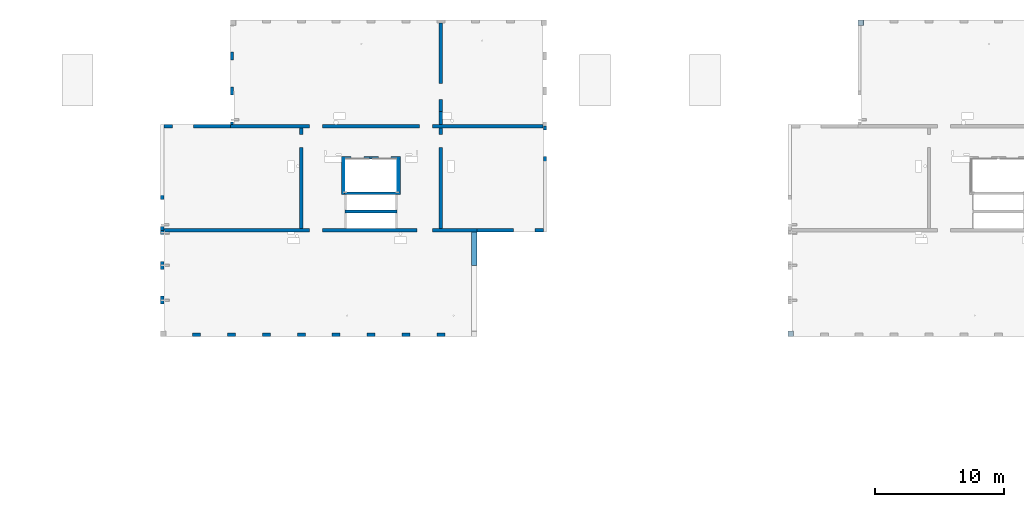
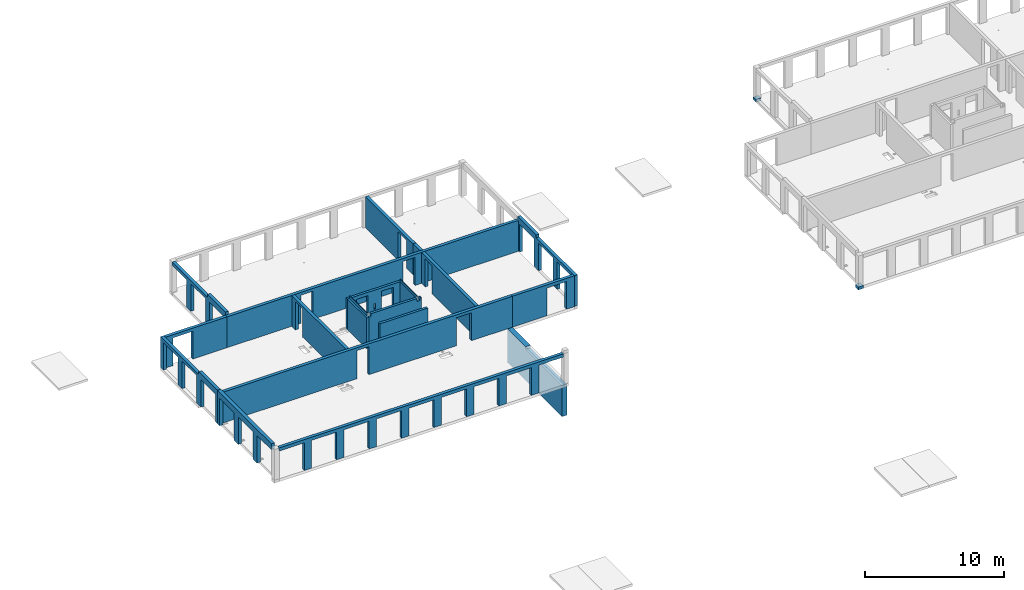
# One storey, part 7 of 14: 21 walls, 2 slabs, 40 openings.
"""IFC2X3 building model written with IfcOpenShell, lengths in millimetres."""

import ifcopenshell
import ifcopenshell.guid

model = None  # the IFC model being written
_history = None  # IfcOwnerHistory: only IFC2X3 demands one
_inside = {}  # id of a spatial element -> (the spatial element, [elements in it])
_under = {}  # id of a project, library or spatial element -> (it, [spatial elements below it])
_declared = {}  # id of a project -> (the project, [libraries it declares])
_typed = {}  # id of a type object -> (the type object, [elements of that type])
_made_of = {}  # id of a material, layer set ... -> (it, [elements and type objects made of it])


def new_model(schema):
    """Start an empty IFC model of exactly this schema.

    Asked for "IFC4X3", IfcOpenShell would pick the latest addendum, in which some entities
    have other attributes; the version numbers below select the first issue.
    IFC2X3 requires an IfcOwnerHistory on every rooted entity: one is made here for all.
    """
    global model, _history
    if schema == "IFC4X3":
        model = ifcopenshell.file(schema_version=(4, 3, 0, 0))
    else:
        model = ifcopenshell.file(schema=schema)
    _inside.clear()
    _under.clear()
    _declared.clear()
    _typed.clear()
    _made_of.clear()
    _history = None
    if model.schema == "IFC2X3":
        org = make("IfcOrganization", Name="unknown")
        user = make(
            "IfcPersonAndOrganization",
            ThePerson=make("IfcPerson", FamilyName="unknown"),
            TheOrganization=org,
        )
        app = make(
            "IfcApplication",
            ApplicationDeveloper=org,
            Version="unknown",
            ApplicationFullName="unknown",
            ApplicationIdentifier="unknown",
        )
        _history = make(
            "IfcOwnerHistory",
            OwningUser=user,
            OwningApplication=app,
            ChangeAction="ADDED",
            CreationDate=0,
        )
    return model


def make(cls, **values):
    """One entity of the class cls with the attributes given. An attribute that is None is left unset."""
    return model.create_entity(
        cls, **{name: value for name, value in values.items() if value is not None}
    )


def entity(cls, *values):
    """Any entity or typed value of the class cls, its attributes in the order of the schema. None: left unset."""
    e = model.create_entity(cls)
    for i, value in enumerate(values):
        if value is not None:
            e[i] = value
    return e


def rooted(cls, **values):
    """An entity with a GlobalId (a new one), such as an element, a storey or a relation."""
    return make(cls, GlobalId=ifcopenshell.guid.new(), OwnerHistory=_history, **values)


def si_unit(unit_type, name, prefix=None):
    """IfcSIUnit, for example si_unit("LENGTHUNIT", "METRE", prefix="MILLI")."""
    return make("IfcSIUnit", UnitType=unit_type, Prefix=prefix, Name=name)


def converted_unit(unit_type, name, factor, base, dimensions=None, offset=None):
    """IfcConversionBasedUnit, such as the inch: factor (a typed value) times the base unit."""
    return make(
        "IfcConversionBasedUnit"
        if offset is None
        else "IfcConversionBasedUnitWithOffset",
        ConversionOffset=offset,
        Dimensions=None
        if dimensions is None
        else entity("IfcDimensionalExponents", *dimensions),
        UnitType=unit_type,
        Name=name,
        ConversionFactor=make(
            "IfcMeasureWithUnit", ValueComponent=factor, UnitComponent=base
        ),
    )


def derived_unit(unit_type, elements):
    """IfcDerivedUnit: a product of units, each with its exponent."""
    return make(
        "IfcDerivedUnit",
        Elements=[
            make("IfcDerivedUnitElement", Unit=unit, Exponent=power)
            for unit, power in elements
        ],
        UnitType=unit_type,
    )


def assignment(units):
    """IfcUnitAssignment: the units of a project."""
    return None if units is None else make("IfcUnitAssignment", Units=units)


def point(xyz):
    """IfcCartesianPoint."""
    return None if xyz is None else make("IfcCartesianPoint", Coordinates=xyz)


def direction(xyz):
    """IfcDirection."""
    return None if xyz is None else make("IfcDirection", DirectionRatios=xyz)


def frame(location, z_axis=None, x_axis=None):
    """IfcAxis2Placement3D, a coordinate frame: its origin and axes. An axis left out is left unset."""
    return make(
        "IfcAxis2Placement3D",
        Location=point(location),
        Axis=direction(z_axis),
        RefDirection=direction(x_axis),
    )


def frame_2d(location, x_axis=None):
    """IfcAxis2Placement2D, a coordinate frame in the plane: its origin and x axis."""
    return make(
        "IfcAxis2Placement2D", Location=point(location), RefDirection=direction(x_axis)
    )


def origin():
    """The frame at (0, 0, 0) with its axes left unset."""
    return frame((0.0, 0.0, 0.0))


def origin_2d_with_axis():
    """The frame at (0, 0) in the plane with the x axis (1, 0) written out."""
    return frame_2d((0.0, 0.0), x_axis=(1.0, 0.0))


def place(relative_to, where):
    """IfcLocalPlacement: puts the frame where relative to a parent placement (None: the world)."""
    return make(
        "IfcLocalPlacement", PlacementRelTo=relative_to, RelativePlacement=where
    )


def context(
    kind, dimensions, precision=None, world=None, true_north=None, identifier=None
):
    """IfcGeometricRepresentationContext, for example the 3D "Model" context."""
    return make(
        "IfcGeometricRepresentationContext",
        ContextIdentifier=identifier,
        ContextType=kind,
        CoordinateSpaceDimension=dimensions,
        Precision=precision,
        WorldCoordinateSystem=world,
        TrueNorth=true_north,
    )


def subcontext(parent, identifier, kind, view, scale=None):
    """IfcGeometricRepresentationSubContext, for example "Body" below "Model"."""
    return make(
        "IfcGeometricRepresentationSubContext",
        ContextIdentifier=identifier,
        ContextType=kind,
        ParentContext=parent,
        TargetScale=scale,
        TargetView=view,
    )


def project(units=None, contexts=None):
    """IfcProject with its units and contexts."""
    return rooted(
        "IfcProject",
        Name="project",
        RepresentationContexts=contexts,
        UnitsInContext=assignment(units),
    )


def spatial(cls, under=None, at=None, **own):
    """A site, building, storey or space (cls), placed at a placement, below another one or the project."""
    s = rooted(cls, ObjectPlacement=at, **own)
    if under is not None:
        _under.setdefault(under.id(), (under, []))[1].append(s)
    return s


def polyline(points):
    """IfcPolyline through the points."""
    return make("IfcPolyline", Points=[point(p) for p in points])


def profile(cls, at=None, kind="AREA", **sizes):
    """A parametric profile (cls). Its sizes go by their IFC names, for example OverallWidth=200.0."""
    return make(cls, ProfileType=kind, Position=at, **sizes)


def rectangle(**sizes):
    """IfcRectangleProfileDef."""
    return profile("IfcRectangleProfileDef", **sizes)


def outline(outer, holes=None, kind="AREA"):
    """IfcArbitraryClosedProfileDef: a profile drawn as a closed curve; with holes, ...WithVoids."""
    if holes is None:
        return make("IfcArbitraryClosedProfileDef", ProfileType=kind, OuterCurve=outer)
    return make(
        "IfcArbitraryProfileDefWithVoids",
        ProfileType=kind,
        OuterCurve=outer,
        InnerCurves=holes,
    )


def extrude(swept, where, along, depth):
    """IfcExtrudedAreaSolid: the profile swept, set in the frame where, extruded along a direction by depth."""
    return make(
        "IfcExtrudedAreaSolid",
        SweptArea=swept,
        Position=where,
        ExtrudedDirection=direction(along),
        Depth=depth,
    )


def shape(context_of_items, identifier, shape_type, items):
    """IfcShapeRepresentation: the items that make up one representation, for example the "Body"."""
    return make(
        "IfcShapeRepresentation",
        ContextOfItems=context_of_items,
        RepresentationIdentifier=identifier,
        RepresentationType=shape_type,
        Items=items,
    )


def material(Name=None, Category=None):
    """IfcMaterial."""
    return make("IfcMaterial", Name=Name, Category=Category)


def layer(
    of_material, thickness, ventilated=None, Name=None, Category=None, Priority=None
):
    """IfcMaterialLayer: one layer of a wall or slab, of a material (None: an air gap)."""
    return make(
        "IfcMaterialLayer",
        Material=of_material,
        LayerThickness=thickness,
        IsVentilated=ventilated,
        Name=Name,
        Category=Category,
        Priority=Priority,
    )


def layer_set(layers, Name=None):
    """IfcMaterialLayerSet."""
    return make("IfcMaterialLayerSet", MaterialLayers=layers, LayerSetName=Name)


def layer_usage(for_layer_set, set_direction, sense, offset, extent=None):
    """IfcMaterialLayerSetUsage: how a layer set lies in its element."""
    return make(
        "IfcMaterialLayerSetUsage",
        ForLayerSet=for_layer_set,
        LayerSetDirection=set_direction,
        DirectionSense=sense,
        OffsetFromReferenceLine=offset,
        ReferenceExtent=extent,
    )


def made_of(thing, what):
    """Note that an element or type object is made of a material, layer set ...; save() writes the relation."""
    if what is not None:
        _made_of.setdefault(what.id(), (what, []))[1].append(thing)
    return thing


def type_object(cls, material=None, **own):
    """A type object (cls), such as IfcWallType, which elements share."""
    return made_of(rooted(cls, **own), material)


def element(
    cls,
    number,
    at=None,
    inside=None,
    cuts=None,
    type_object=None,
    material=None,
    context=None,
    identifier="Body",
    shape_type=None,
    held_by="IfcProductDefinitionShape",
    body=None,
    shapes=None,
    **own,
):
    """One element of the class cls, such as IfcWall. Its Tag is "e" and its number.

    at: its placement. inside: the storey or other place that contains it. cuts: it is an
    opening in that element (IfcRelVoidsElement). A single representation is given by context,
    identifier, shape_type and body (its items); several are given by shapes. held_by: the class
    of the entity that holds the representations. save() writes the other relations.
    """
    e = rooted(cls, Tag="e%d" % number, ObjectPlacement=at, **own)
    if body is not None:
        shapes = [shape(context, identifier, shape_type, body)]
    if shapes is not None:
        e.Representation = make(held_by, Representations=shapes)
    if inside is not None:
        _inside.setdefault(inside.id(), (inside, []))[1].append(e)
    if cuts is not None:
        rooted(
            "IfcRelVoidsElement", RelatingBuildingElement=cuts, RelatedOpeningElement=e
        )
    if type_object is not None:
        _typed.setdefault(type_object.id(), (type_object, []))[1].append(e)
    return made_of(e, material)


def aggregate(whole, parts):
    """IfcRelAggregates: a whole, such as a stair, and the parts it consists of."""
    return rooted("IfcRelAggregates", RelatingObject=whole, RelatedObjects=parts)


def save(model, path):
    """Write the relations noted so far, then the file.

    IfcRelAggregates (storeys below a building ...), IfcRelContainedInSpatialStructure (elements
    in a storey), IfcRelDefinesByType, IfcRelAssociatesMaterial and IfcRelDeclares: one each for
    every whole, place, type object, material and project.
    """
    for whole, parts in _under.values():
        aggregate(whole, parts)
    for where, things in _inside.values():
        rooted(
            "IfcRelContainedInSpatialStructure",
            RelatedElements=things,
            RelatingStructure=where,
        )
    for kind, things in _typed.values():
        rooted("IfcRelDefinesByType", RelatedObjects=things, RelatingType=kind)
    for what, things in _made_of.values():
        rooted("IfcRelAssociatesMaterial", RelatedObjects=things, RelatingMaterial=what)
    for by, libraries in _declared.values():
        rooted("IfcRelDeclares", RelatingContext=by, RelatedDefinitions=libraries)
    model.write(path)


model = new_model("IFC2X3")

# Units and contexts
model_context = context("Model", 3, precision=0.01, world=origin(), true_north=direction((6.12303176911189e-17, 1.0)))
body_context = subcontext(model_context, "Body", "Model", "MODEL_VIEW")
ifc_project = project(units=[si_unit("LENGTHUNIT", "METRE", prefix="MILLI"), si_unit("AREAUNIT", "SQUARE_METRE"), si_unit("VOLUMEUNIT", "CUBIC_METRE"), converted_unit("PLANEANGLEUNIT", "DEGREE", entity("IfcRatioMeasure", 0.0174532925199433), si_unit("PLANEANGLEUNIT", "RADIAN"), dimensions=[0, 0, 0, 0, 0, 0, 0]), si_unit("MASSUNIT", "GRAM", prefix="KILO"), derived_unit("MASSDENSITYUNIT", [(si_unit("MASSUNIT", "GRAM", prefix="KILO"), 1), (si_unit("LENGTHUNIT", "METRE"), -3)]), si_unit("TIMEUNIT", "SECOND"), si_unit("FREQUENCYUNIT", "HERTZ"), si_unit("THERMODYNAMICTEMPERATUREUNIT", "DEGREE_CELSIUS"), derived_unit("THERMALTRANSMITTANCEUNIT", [(si_unit("MASSUNIT", "GRAM", prefix="KILO"), 1), (si_unit("THERMODYNAMICTEMPERATUREUNIT", "KELVIN"), -1), (si_unit("TIMEUNIT", "SECOND"), -3)]), derived_unit("VOLUMETRICFLOWRATEUNIT", [(si_unit("LENGTHUNIT", "METRE"), 3), (si_unit("TIMEUNIT", "SECOND"), -1)]), si_unit("ELECTRICCURRENTUNIT", "AMPERE"), si_unit("ELECTRICVOLTAGEUNIT", "VOLT"), si_unit("POWERUNIT", "WATT"), si_unit("FORCEUNIT", "NEWTON", prefix="KILO"), si_unit("ILLUMINANCEUNIT", "LUX"), si_unit("LUMINOUSFLUXUNIT", "LUMEN"), si_unit("LUMINOUSINTENSITYUNIT", "CANDELA"), derived_unit("USERDEFINED", [(si_unit("MASSUNIT", "GRAM", prefix="KILO"), -1), (si_unit("LENGTHUNIT", "METRE"), -2), (si_unit("TIMEUNIT", "SECOND"), 3), (si_unit("LUMINOUSFLUXUNIT", "LUMEN"), 1)]), derived_unit("LINEARVELOCITYUNIT", [(si_unit("LENGTHUNIT", "METRE"), 1), (si_unit("TIMEUNIT", "SECOND"), -1)]), si_unit("PRESSUREUNIT", "PASCAL"), derived_unit("USERDEFINED", [(si_unit("LENGTHUNIT", "METRE"), -2), (si_unit("MASSUNIT", "GRAM", prefix="KILO"), 1), (si_unit("TIMEUNIT", "SECOND"), -2)])], contexts=[model_context])

# Site, building, storey
site_placement = place(None, origin())
site = spatial("IfcSite", under=ifc_project, at=site_placement, Name="Default", CompositionType="ELEMENT")
building_placement = place(site_placement, origin())
building = spatial("IfcBuilding", under=site, at=building_placement, Name="niet gebruiken", CompositionType="ELEMENT")
storey_placement = place(building_placement, frame((0.0, 0.0, 15570.0)))
storey = spatial("IfcBuildingStorey", under=building, at=storey_placement, Name="05 vijfde verdieping", CompositionType="ELEMENT", Elevation=15570.0)

# Slabs
ifc_material_1 = material(Name="NLRS_f2_beton ihwg")
ifc_layer_1 = layer(ifc_material_1, 250.0)
ifc_layer_set_1 = layer_set([ifc_layer_1], Name="Floor:NLRS_23.21_FL_beton ihwg d=250_gen")
ifc_layer_usage_1 = layer_usage(ifc_layer_set_1, "AXIS3", "POSITIVE", 0.0)
slab_1_placement = place(storey_placement, origin())
element("IfcSlab", 1, at=slab_1_placement, inside=storey, material=ifc_layer_usage_1, Name="Floor:NLRS_23.21_FL_beton ihwg d=250_gen", ObjectType="Floor:NLRS_23.21_FL_beton ihwg d=250_gen", PredefinedType="FLOOR", context=body_context, shape_type="SweptSolid", body=[
    extrude(outline(polyline([(-280.0, -240.0), (130.0, -240.0), (130.0, 50.0), (150.0, 50.0), (150.0, 190.0), (-280.0, 190.0), (-280.0, -240.0)])), frame((75740.0, 29036.0, -90.0), z_axis=(0.0, 0.0, -1.0), x_axis=(0.0, 1.0, 0.0)), (0.0, 0.0, 1.0), 249.999999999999),
])
ifc_layer_usage_2 = layer_usage(ifc_layer_set_1, "AXIS3", "POSITIVE", 0.0)
slab_2_placement = place(storey_placement, origin())
element("IfcSlab", 2, at=slab_2_placement, inside=storey, material=ifc_layer_usage_2, Name="Floor:NLRS_23.21_FL_beton ihwg d=250_gen", ObjectType="Floor:NLRS_23.21_FL_beton ihwg d=250_gen", PredefinedType="FLOOR", context=body_context, shape_type="SweptSolid", body=[
    extrude(rectangle(XDim=409.999999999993, YDim=430.000032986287, at=frame_2d((-8.66862137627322e-12, 0.0), x_axis=(1.0, 0.0))), frame((81115.0, 53051.0, -90.0), z_axis=(0.0, 0.0, -1.0), x_axis=(0.0, 1.0, 0.0)), (0.0, 0.0, 1.0), 249.999999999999),
])

# Wall, openings
ifc_layer_2 = layer(ifc_material_1, 250.0)
ifc_layer_set_2 = layer_set([ifc_layer_2], Name="Basic Wall:NLRS_22.21_WA_beton ihwg d=250_gen")
ifc_layer_usage_3 = layer_usage(ifc_layer_set_2, "AXIS2", "NEGATIVE", 125.0)
wall_type_1 = type_object("IfcWallType", Name="Basic Wall:NLRS_22.21_WA_beton ihwg d=250_gen", PredefinedType="STANDARD", material=ifc_layer_set_2)
wall_1_placement = place(storey_placement, frame((27170.0, 36981.0, -90.0)))
wall_1 = element("IfcWallStandardCase", 3, at=wall_1_placement, inside=storey, type_object=wall_type_1, material=ifc_layer_usage_3, Name="Basic Wall:NLRS_22.21_WA_beton ihwg d=250_gen", ObjectType="Basic Wall:NLRS_22.21_WA_beton ihwg d=250_gen", context=body_context, shape_type="SweptSolid", body=[
    extrude(rectangle(XDim=24230.0, YDim=250.000000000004, at=frame_2d((12115.0, 0.0), x_axis=(-1.0, 0.0))), origin(), (0.0, 0.0, 1.0), 2719.99999999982),
])
opening_1_placement = place(wall_1_placement, origin())
element("IfcOpeningElement", 4, at=opening_1_placement, cuts=wall_1, Name="Basic Wall:NLRS_22.21_WA_beton ihwg d=250_gen", ObjectType="Opening", context=body_context, shape_type="SweptSolid", body=[
    extrude(rectangle(XDim=2470.0, YDim=1225.0, at=frame_2d((0.0, 0.0), x_axis=(0.0, 1.0))), frame((20192.5000000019, -1399.0, 1235.0), z_axis=(0.0, 1.0, 0.0), x_axis=(-1.0, 0.0, 0.0)), (0.0, 0.0, 1.0), 3048.0),
])
opening_2_placement = place(wall_1_placement, origin())
element("IfcOpeningElement", 5, at=opening_2_placement, cuts=wall_1, Name="Basic Wall:NLRS_22.21_WA_beton ihwg d=250_gen", ObjectType="Opening", context=body_context, shape_type="SweptSolid", body=[
    extrude(rectangle(XDim=2470.0, YDim=1006.0, at=frame_2d((2.1600499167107e-12, 0.0), x_axis=(0.0, 1.0))), frame((11782.0, -1399.0, 1235.0), z_axis=(0.0, 1.0, 0.0), x_axis=(-1.0, 0.0, 0.0)), (0.0, 0.0, 1.0), 3048.0),
])
opening_3_placement = place(wall_1_placement, origin())
element("IfcOpeningElement", 6, at=opening_3_placement, cuts=wall_1, Name="Basic Wall:NLRS_22.21_WA_beton ihwg d=250_gen", ObjectType="Recess", context=body_context, shape_type="SweptSolid", body=[
    extrude(rectangle(XDim=55000.0, YDim=20.0000000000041, at=frame_2d((0.0, -2.16626716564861e-12), x_axis=(1.0, 0.0))), frame((10.0, -140.0, 24530.0), z_axis=(0.0, 1.0, 0.0), x_axis=(0.0, 0.0, -1.0)), (0.0, 0.0, 1.0), 124.999999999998),
])

# Wall, opening
ifc_layer_usage_4 = layer_usage(ifc_layer_set_2, "AXIS2", "NEGATIVE", 125.0)
wall_2_placement = place(storey_placement, frame((27170.0, 45031.0, -90.0)))
wall_2 = element("IfcWallStandardCase", 7, at=wall_2_placement, inside=storey, type_object=wall_type_1, material=ifc_layer_usage_4, Name="Basic Wall:NLRS_22.21_WA_beton ihwg d=250_gen", ObjectType="Basic Wall:NLRS_22.21_WA_beton ihwg d=250_gen", context=body_context, shape_type="SweptSolid", body=[
    extrude(rectangle(XDim=5130.0, YDim=249.999999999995, at=frame_2d((2565.0, 0.0), x_axis=(-1.0, 0.0))), origin(), (0.0, 0.0, 1.0), 2719.99999999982),
])
opening_4_placement = place(wall_2_placement, origin())
element("IfcOpeningElement", 8, at=opening_4_placement, cuts=wall_2, Name="Basic Wall:NLRS_22.21_WA_beton ihwg d=250_gen", ObjectType="Opening", context=body_context, shape_type="SweptSolid", body=[
    extrude(rectangle(XDim=2440.0, YDim=1640.0, at=frame_2d((-1.13686837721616e-12, 0.0), x_axis=(1.0, 0.0))), frame((1460.0, -1649.0, 1220.0), z_axis=(0.0, 1.0, 0.0), x_axis=(0.0, 0.0, 1.0)), (0.0, 0.0, 1.0), 3048.0),
])

ifc_layer_usage_5 = layer_usage(ifc_layer_set_2, "AXIS2", "NEGATIVE", 125.0)
wall_3_placement = place(storey_placement, frame((37800.0, 44906.0, -90.0), z_axis=(0.0, 0.0, 1.0), x_axis=(0.0, -1.0, 0.0)))
wall_3 = element("IfcWallStandardCase", 9, at=wall_3_placement, inside=storey, type_object=wall_type_1, material=ifc_layer_usage_5, Name="Basic Wall:NLRS_22.21_WA_beton ihwg d=250_gen", ObjectType="Basic Wall:NLRS_22.21_WA_beton ihwg d=250_gen", context=body_context, shape_type="SweptSolid", body=[
    extrude(rectangle(XDim=7799.99999999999, YDim=250.000000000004, at=frame_2d((3900.0, 0.0), x_axis=(-1.0, 0.0))), origin(), (0.0, 0.0, 1.0), 2719.99999999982),
])
opening_5_placement = place(wall_3_placement, origin())
element("IfcOpeningElement", 10, at=opening_5_placement, cuts=wall_3, Name="Basic Wall:NLRS_22.21_WA_beton ihwg d=250_gen", ObjectType="Opening", context=body_context, shape_type="SweptSolid", body=[
    extrude(rectangle(XDim=2470.0, YDim=1006.0, at=origin_2d_with_axis()), frame((1027.0, -1649.0, 1235.0), z_axis=(0.0, 1.0, 0.0), x_axis=(0.0, 0.0, 1.0)), (0.0, 0.0, 1.0), 3048.0),
])

ifc_layer_usage_6 = layer_usage(ifc_layer_set_2, "AXIS2", "NEGATIVE", 125.0)
wall_4_placement = place(storey_placement, frame((48600.0, 53006.0, -90.0), z_axis=(0.0, 0.0, 1.0), x_axis=(0.0, -1.0, 0.0)))
wall_4 = element("IfcWallStandardCase", 11, at=wall_4_placement, inside=storey, type_object=wall_type_1, material=ifc_layer_usage_6, Name="Basic Wall:NLRS_22.21_WA_beton ihwg d=250_gen", ObjectType="Basic Wall:NLRS_22.21_WA_beton ihwg d=250_gen", context=body_context, shape_type="SweptSolid", body=[
    extrude(rectangle(XDim=6850.00000000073, YDim=249.999999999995, at=frame_2d((3425.00000000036, -1.10134124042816e-12), x_axis=(-1.0, 0.0))), origin(), (0.0, 0.0, 1.0), 2719.99999999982),
])
opening_6_placement = place(wall_4_placement, origin())
element("IfcOpeningElement", 12, at=opening_6_placement, cuts=wall_4, Name="Basic Wall:NLRS_22.21_WA_beton ihwg d=250_gen", ObjectType="Opening", context=body_context, shape_type="SweptSolid", body=[
    extrude(rectangle(XDim=2470.0, YDim=1240.0, at=frame_2d((0.0, 4.37694325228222e-12), x_axis=(1.0, 0.0))), frame((5300.0, -1649.0, 1235.0), z_axis=(0.0, 1.0, 0.0), x_axis=(0.0, 0.0, 1.0)), (0.0, 0.0, 1.0), 3048.0),
])

ifc_layer_usage_7 = layer_usage(ifc_layer_set_2, "AXIS2", "NEGATIVE", 125.0)
wall_5_placement = place(storey_placement, frame((48600.0, 44906.0, -90.0), z_axis=(0.0, 0.0, 1.0), x_axis=(0.0, -1.0, 0.0)))
wall_5 = element("IfcWallStandardCase", 13, at=wall_5_placement, inside=storey, type_object=wall_type_1, material=ifc_layer_usage_7, Name="Basic Wall:NLRS_22.21_WA_beton ihwg d=250_gen", ObjectType="Basic Wall:NLRS_22.21_WA_beton ihwg d=250_gen", context=body_context, shape_type="SweptSolid", body=[
    extrude(rectangle(XDim=7799.99999999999, YDim=249.999999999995, at=frame_2d((3900.0, 0.0), x_axis=(-1.0, 0.0))), origin(), (0.0, 0.0, 1.0), 2719.99999999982),
])
opening_7_placement = place(wall_5_placement, origin())
element("IfcOpeningElement", 14, at=opening_7_placement, cuts=wall_5, Name="Basic Wall:NLRS_22.21_WA_beton ihwg d=250_gen", ObjectType="Opening", context=body_context, shape_type="SweptSolid", body=[
    extrude(rectangle(XDim=2470.0, YDim=1006.0, at=origin_2d_with_axis()), frame((1027.0, -1649.0, 1235.0), z_axis=(0.0, 1.0, 0.0), x_axis=(0.0, 0.0, 1.0)), (0.0, 0.0, 1.0), 3048.0),
])

# Wall, openings
ifc_layer_usage_8 = layer_usage(ifc_layer_set_2, "AXIS2", "NEGATIVE", 125.0)
wall_6_placement = place(storey_placement, frame((32300.0, 45031.0, -90.0)))
wall_6 = element("IfcWallStandardCase", 15, at=wall_6_placement, inside=storey, type_object=wall_type_1, material=ifc_layer_usage_8, Name="Basic Wall:NLRS_22.21_WA_beton ihwg d=250_gen", ObjectType="Basic Wall:NLRS_22.21_WA_beton ihwg d=250_gen", context=body_context, shape_type="SweptSolid", body=[
    extrude(rectangle(XDim=24230.0000000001, YDim=249.999999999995, at=frame_2d((12115.0000000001, 0.0), x_axis=(-1.0, 0.0))), origin(), (0.0, 0.0, 1.0), 2719.99999999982),
])
opening_8_placement = place(wall_6_placement, origin())
element("IfcOpeningElement", 16, at=opening_8_placement, cuts=wall_6, Name="Basic Wall:NLRS_22.21_WA_beton ihwg d=250_gen", ObjectType="Opening", context=body_context, shape_type="SweptSolid", body=[
    extrude(rectangle(XDim=2470.0, YDim=1006.0, at=origin_2d_with_axis()), frame((15148.0, -1649.0, 1235.0), z_axis=(0.0, 1.0, 0.0), x_axis=(0.0, 0.0, 1.0)), (0.0, 0.0, 1.0), 3048.0),
])
opening_9_placement = place(wall_6_placement, origin())
element("IfcOpeningElement", 17, at=opening_9_placement, cuts=wall_6, Name="Basic Wall:NLRS_22.21_WA_beton ihwg d=250_gen", ObjectType="Opening", context=body_context, shape_type="SweptSolid", body=[
    extrude(rectangle(XDim=2470.0, YDim=1006.0, at=frame_2d((0.0, 2.1600499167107e-12), x_axis=(1.0, 0.0))), frame((6652.0, -1649.0, 1235.0), z_axis=(0.0, 1.0, 0.0), x_axis=(0.0, 0.0, 1.0)), (0.0, 0.0, 1.0), 3048.0),
])

# Wall, opening
ifc_layer_usage_9 = layer_usage(ifc_layer_set_2, "AXIS2", "NEGATIVE", 125.0)
wall_7_placement = place(storey_placement, frame((51400.0, 36981.0, -90.0)))
wall_7 = element("IfcWallStandardCase", 18, at=wall_7_placement, inside=storey, type_object=wall_type_1, material=ifc_layer_usage_9, Name="Basic Wall:NLRS_22.21_WA_beton ihwg d=250_gen", ObjectType="Basic Wall:NLRS_22.21_WA_beton ihwg d=250_gen", context=body_context, shape_type="SweptSolid", body=[
    extrude(rectangle(XDim=5150.0, YDim=250.000000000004, at=frame_2d((2575.0, 0.0), x_axis=(-1.0, 0.0))), origin(), (0.0, 0.0, 1.0), 2719.99999999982),
])
opening_10_placement = place(wall_7_placement, origin())
element("IfcOpeningElement", 19, at=opening_10_placement, cuts=wall_7, Name="Basic Wall:NLRS_22.21_WA_beton ihwg d=250_gen", ObjectType="Opening", context=body_context, shape_type="SweptSolid", body=[
    extrude(rectangle(XDim=2440.0, YDim=1640.0, at=frame_2d((4.37694325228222e-12, -1.13686837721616e-12), x_axis=(0.0, 1.0))), frame((3670.0, -1399.0, 1220.0), z_axis=(0.0, 1.0, 0.0), x_axis=(-1.0, 0.0, 0.0)), (0.0, 0.0, 1.0), 3048.0),
])

# Wall
ifc_layer_usage_10 = layer_usage(ifc_layer_set_2, "AXIS2", "NEGATIVE", 125.0)
wall_8_placement = place(storey_placement, frame((48600.0, 46156.0, -90.0), z_axis=(0.0, 0.0, 1.0), x_axis=(0.0, -1.0, 0.0)))
element("IfcWallStandardCase", 20, at=wall_8_placement, inside=storey, type_object=wall_type_1, material=ifc_layer_usage_10, Name="Basic Wall:NLRS_22.21_WA_beton ihwg d=250_gen", ObjectType="Basic Wall:NLRS_22.21_WA_beton ihwg d=250_gen", context=body_context, shape_type="SweptSolid", body=[
    extrude(rectangle(XDim=999.999999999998, YDim=249.999999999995, at=frame_2d((499.999999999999, 1.10134124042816e-12), x_axis=(-1.0, 0.0))), origin(), (0.0, 0.0, 1.0), 2719.99999999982),
])

# Wall, openings
ifc_material_2 = material(Name="NLRS_f2_beton prefab")
ifc_layer_3 = layer(ifc_material_2, 250.0)
ifc_layer_set_3 = layer_set([ifc_layer_3], Name="Basic Wall:NLRS_21.21_WA_beton prefab d=250_gen")
ifc_layer_usage_11 = layer_usage(ifc_layer_set_3, "AXIS2", "NEGATIVE", 125.0)
wall_type_2 = type_object("IfcWallType", Name="Basic Wall:NLRS_21.21_WA_beton prefab d=250_gen", PredefinedType="STANDARD", material=ifc_layer_set_3)
wall_9_placement = place(storey_placement, frame((27025.0, 45156.0, -70.0), z_axis=(0.0, 0.0, 1.0), x_axis=(0.0, -1.0, 0.0)))
wall_9 = element("IfcWallStandardCase", 21, at=wall_9_placement, inside=storey, type_object=wall_type_2, material=ifc_layer_usage_11, Name="Basic Wall:NLRS_21.21_WA_beton prefab d=250_gen", ObjectType="Basic Wall:NLRS_21.21_WA_beton prefab d=250_gen", context=body_context, shape_type="SweptSolid", body=[
    extrude(rectangle(XDim=8189.99999999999, YDim=250.000000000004, at=frame_2d((4095.0, 0.0), x_axis=(-1.0, 0.0))), origin(), (0.0, 0.0, 1.0), 2949.99999999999),
])
opening_11_placement = place(wall_9_placement, origin())
element("IfcOpeningElement", 22, at=opening_11_placement, cuts=wall_9, Name="Basic Wall:NLRS_21.21_WA_beton prefab d=250_gen", ObjectType="Opening", context=body_context, shape_type="SweptSolid", body=[
    extrude(rectangle(XDim=2420.0, YDim=2080.0, at=frame_2d((0.0, 1.02318153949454e-12), x_axis=(0.0, 1.0))), frame((1450.0, -1399.0, 1210.0), z_axis=(0.0, 1.0, 0.0), x_axis=(-1.0, 0.0, 0.0)), (0.0, 0.0, 1.0), 3048.0),
])
opening_12_placement = place(wall_9_placement, origin())
element("IfcOpeningElement", 23, at=opening_12_placement, cuts=wall_9, Name="Basic Wall:NLRS_21.21_WA_beton prefab d=250_gen", ObjectType="Opening", context=body_context, shape_type="SweptSolid", body=[
    extrude(rectangle(XDim=2420.0, YDim=2080.0, at=frame_2d((0.0, -1.02318153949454e-12), x_axis=(0.0, 1.0))), frame((4150.0, -1399.0, 1210.0), z_axis=(0.0, 1.0, 0.0), x_axis=(-1.0, 0.0, 0.0)), (0.0, 0.0, 1.0), 3048.0),
])
opening_13_placement = place(wall_9_placement, origin())
element("IfcOpeningElement", 24, at=opening_13_placement, cuts=wall_9, Name="Basic Wall:NLRS_21.21_WA_beton prefab d=250_gen", ObjectType="Opening", context=body_context, shape_type="SweptSolid", body=[
    extrude(rectangle(XDim=2420.0, YDim=2080.0, at=frame_2d((0.0, 1.02318153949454e-12), x_axis=(0.0, 1.0))), frame((6850.0, -1399.0, 1210.0), z_axis=(0.0, 1.0, 0.0), x_axis=(-1.0, 0.0, 0.0)), (0.0, 0.0, 1.0), 3048.0),
])
opening_14_placement = place(wall_9_placement, origin())
element("IfcOpeningElement", 25, at=opening_14_placement, cuts=wall_9, Name="Basic Wall:NLRS_21.21_WA_beton prefab d=250_gen", ObjectType="Opening", context=body_context, shape_type="SweptSolid", body=[
    extrude(rectangle(XDim=250.000000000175, YDim=5499.99999999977, at=frame_2d((0.0, 1.08002495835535e-12), x_axis=(0.0, 1.0))), frame((2750.0, 125.0, 2825.0), z_axis=(0.0, -1.0, 0.0), x_axis=(-1.0, 0.0, 0.0)), (0.0, 0.0, 1.0), 250.0),
])

ifc_layer_usage_12 = layer_usage(ifc_layer_set_3, "AXIS2", "NEGATIVE", 125.0)
wall_10_placement = place(storey_placement, frame((32425.0, 52846.0, -70.0), z_axis=(0.0, 0.0, 1.0), x_axis=(0.0, -1.0, 0.0)))
wall_10 = element("IfcWallStandardCase", 26, at=wall_10_placement, inside=storey, type_object=wall_type_2, material=ifc_layer_usage_12, Name="Basic Wall:NLRS_21.21_WA_beton prefab d=250_gen", ObjectType="Basic Wall:NLRS_21.21_WA_beton prefab d=250_gen", context=body_context, shape_type="SweptSolid", body=[
    extrude(rectangle(XDim=7670.00000000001, YDim=250.000000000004, at=frame_2d((3835.0, 0.0), x_axis=(-1.0, 0.0))), origin(), (0.0, 0.0, 1.0), 2949.99999999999),
])
opening_15_placement = place(wall_10_placement, origin())
element("IfcOpeningElement", 27, at=opening_15_placement, cuts=wall_10, Name="Basic Wall:NLRS_21.21_WA_beton prefab d=250_gen", ObjectType="Opening", context=body_context, shape_type="SweptSolid", body=[
    extrude(rectangle(XDim=2420.0, YDim=2080.0, at=frame_2d((8.64019966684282e-12, 1.02318153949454e-12), x_axis=(0.0, 1.0))), frame((1040.0, -1399.0, 1210.0), z_axis=(0.0, 1.0, 0.0), x_axis=(-1.0, 0.0, 0.0)), (0.0, 0.0, 1.0), 3048.0),
])
opening_16_placement = place(wall_10_placement, origin())
element("IfcOpeningElement", 28, at=opening_16_placement, cuts=wall_10, Name="Basic Wall:NLRS_21.21_WA_beton prefab d=250_gen", ObjectType="Opening", context=body_context, shape_type="SweptSolid", body=[
    extrude(rectangle(XDim=2420.0, YDim=2080.0, at=frame_2d((0.0, -1.02318153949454e-12), x_axis=(0.0, 1.0))), frame((3740.0, -1399.0, 1210.0), z_axis=(0.0, 1.0, 0.0), x_axis=(-1.0, 0.0, 0.0)), (0.0, 0.0, 1.0), 3048.0),
])
opening_17_placement = place(wall_10_placement, origin())
element("IfcOpeningElement", 29, at=opening_17_placement, cuts=wall_10, Name="Basic Wall:NLRS_21.21_WA_beton prefab d=250_gen", ObjectType="Opening", context=body_context, shape_type="SweptSolid", body=[
    extrude(rectangle(XDim=2420.0, YDim=2080.0, at=frame_2d((0.0, 1.02318153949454e-12), x_axis=(0.0, 1.0))), frame((6440.0, -1399.0, 1210.0), z_axis=(0.0, 1.0, 0.0), x_axis=(-1.0, 0.0, 0.0)), (0.0, 0.0, 1.0), 3048.0),
])
opening_18_placement = place(wall_10_placement, origin())
element("IfcOpeningElement", 30, at=opening_18_placement, cuts=wall_10, Name="Basic Wall:NLRS_21.21_WA_beton prefab d=250_gen", ObjectType="Opening", context=body_context, shape_type="SweptSolid", body=[
    extrude(rectangle(XDim=250.000000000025, YDim=5089.99999999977, at=frame_2d((4.32009983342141e-12, 0.0), x_axis=(0.0, 1.0))), frame((2545.0, 125.0, 2825.0), z_axis=(0.0, -1.0, 0.0), x_axis=(-1.0, 0.0, 0.0)), (0.0, 0.0, 1.0), 250.0),
])

ifc_layer_usage_13 = layer_usage(ifc_layer_set_3, "AXIS2", "NEGATIVE", 125.0)
wall_11_placement = place(storey_placement, frame((56675.0, 45046.0, -70.0), z_axis=(0.0, 0.0, 1.0), x_axis=(0.0, -1.0, 0.0)))
wall_11 = element("IfcWallStandardCase", 31, at=wall_11_placement, inside=storey, type_object=wall_type_2, material=ifc_layer_usage_13, Name="Basic Wall:NLRS_21.21_WA_beton prefab d=250_gen", ObjectType="Basic Wall:NLRS_21.21_WA_beton prefab d=250_gen", context=body_context, shape_type="SweptSolid", body=[
    extrude(rectangle(XDim=8189.99999999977, YDim=249.999999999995, at=frame_2d((4094.99999999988, 0.0), x_axis=(-1.0, 0.0))), origin(), (0.0, 0.0, 1.0), 2949.99999999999),
])
opening_19_placement = place(wall_11_placement, origin())
element("IfcOpeningElement", 32, at=opening_19_placement, cuts=wall_11, Name="Basic Wall:NLRS_21.21_WA_beton prefab d=250_gen", ObjectType="Opening", context=body_context, shape_type="SweptSolid", body=[
    extrude(rectangle(XDim=2420.0, YDim=2080.0, at=frame_2d((0.0, -1.02318153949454e-12), x_axis=(0.0, 1.0))), frame((1340.0, -1399.0, 1210.0), z_axis=(0.0, 1.0, 0.0), x_axis=(-1.0, 0.0, 0.0)), (0.0, 0.0, 1.0), 3048.0),
])
opening_20_placement = place(wall_11_placement, origin())
element("IfcOpeningElement", 33, at=opening_20_placement, cuts=wall_11, Name="Basic Wall:NLRS_21.21_WA_beton prefab d=250_gen", ObjectType="Opening", context=body_context, shape_type="SweptSolid", body=[
    extrude(rectangle(XDim=2420.0, YDim=2080.0, at=frame_2d((0.0, -1.02318153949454e-12), x_axis=(0.0, 1.0))), frame((4040.0, -1399.0, 1210.0), z_axis=(0.0, 1.0, 0.0), x_axis=(-1.0, 0.0, 0.0)), (0.0, 0.0, 1.0), 3048.0),
])
opening_21_placement = place(wall_11_placement, origin())
element("IfcOpeningElement", 34, at=opening_21_placement, cuts=wall_11, Name="Basic Wall:NLRS_21.21_WA_beton prefab d=250_gen", ObjectType="Opening", context=body_context, shape_type="SweptSolid", body=[
    extrude(rectangle(XDim=2420.0, YDim=2080.0, at=frame_2d((0.0, -1.02318153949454e-12), x_axis=(0.0, 1.0))), frame((6740.0, -1399.0, 1210.0), z_axis=(0.0, 1.0, 0.0), x_axis=(-1.0, 0.0, 0.0)), (0.0, 0.0, 1.0), 3048.0),
])
opening_22_placement = place(wall_11_placement, origin())
element("IfcOpeningElement", 35, at=opening_22_placement, cuts=wall_11, Name="Basic Wall:NLRS_21.21_WA_beton prefab d=250_gen", ObjectType="Opening", context=body_context, shape_type="SweptSolid", body=[
    extrude(rectangle(XDim=249.999999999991, YDim=5500.0000000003, at=frame_2d((0.0, -4.32009983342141e-12), x_axis=(1.0, 0.0))), frame((5440.0, 125.0, 2825.0), z_axis=(0.0, -1.0, 0.0), x_axis=(0.0, 0.0, 1.0)), (0.0, 0.0, 1.0), 250.0),
])

# Wall
ifc_layer_4 = layer(ifc_material_2, 200.0)
ifc_layer_set_4 = layer_set([ifc_layer_4], Name="Basic Wall:NLRS_21.21_WA_beton prefab d=200_gen")
ifc_layer_usage_14 = layer_usage(ifc_layer_set_4, "AXIS2", "NEGATIVE", 100.0)
wall_type_3 = type_object("IfcWallType", Name="Basic Wall:NLRS_21.21_WA_beton prefab d=200_gen", PredefinedType="STANDARD", material=ifc_layer_set_4)
wall_12_placement = place(storey_placement, frame((41200.0, 38426.0, -70.0)))
element("IfcWallStandardCase", 36, at=wall_12_placement, inside=storey, type_object=wall_type_3, material=ifc_layer_usage_14, Name="Basic Wall:NLRS_21.21_WA_beton prefab d=200_gen", ObjectType="Basic Wall:NLRS_21.21_WA_beton prefab d=200_gen", context=body_context, shape_type="SweptSolid", body=[
    extrude(rectangle(XDim=3999.99999999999, YDim=199.999999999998, at=frame_2d((2000.0, 0.0), x_axis=(-1.0, 0.0))), origin(), (0.0, 0.0, 1.0), 2950.00000000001),
])

# Wall, openings
ifc_layer_5 = layer(ifc_material_2, 200.0)
ifc_layer_set_5 = layer_set([ifc_layer_5], Name="Basic Wall:NLRS_22.21_WA_beton prefab d=200_gen")
ifc_layer_usage_15 = layer_usage(ifc_layer_set_5, "AXIS2", "NEGATIVE", 100.0)
wall_type_4 = type_object("IfcWallType", Name="Basic Wall:NLRS_22.21_WA_beton prefab d=200_gen", PredefinedType="STANDARD", material=ifc_layer_set_5)
wall_13_placement = place(storey_placement, frame((40925.0, 42596.0, -70.0)))
wall_13 = element("IfcWallStandardCase", 37, at=wall_13_placement, inside=storey, type_object=wall_type_4, material=ifc_layer_usage_15, Name="Basic Wall:NLRS_22.21_WA_beton prefab d=200_gen", ObjectType="Basic Wall:NLRS_22.21_WA_beton prefab d=200_gen", context=body_context, shape_type="SweptSolid", body=[
    extrude(rectangle(XDim=4549.99999999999, YDim=200.000000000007, at=frame_2d((2274.99999999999, 7.8159700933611e-13), x_axis=(-1.0, 0.0))), origin(), (0.0, 0.0, 1.0), 2699.99999999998),
])
opening_23_placement = place(wall_13_placement, origin())
element("IfcOpeningElement", 38, at=opening_23_placement, cuts=wall_13, Name="Basic Wall:NLRS_22.21_WA_beton prefab d=200_gen", ObjectType="Opening", context=body_context, shape_type="SweptSolid", body=[
    extrude(rectangle(XDim=2430.0, YDim=980.000000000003, at=origin_2d_with_axis()), frame((1219.99984910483, -1624.0, 1195.0), z_axis=(0.0, 1.0, 0.0), x_axis=(0.0, 0.0, 1.0)), (0.0, 0.0, 1.0), 3048.0),
])
opening_24_placement = place(wall_13_placement, origin())
element("IfcOpeningElement", 39, at=opening_24_placement, cuts=wall_13, Name="Basic Wall:NLRS_22.21_WA_beton prefab d=200_gen", ObjectType="Opening", context=body_context, shape_type="SweptSolid", body=[
    extrude(rectangle(XDim=2430.0, YDim=980.000000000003, at=origin_2d_with_axis()), frame((3329.99984910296, -1624.0, 1195.0), z_axis=(0.0, 1.0, 0.0), x_axis=(0.0, 0.0, 1.0)), (0.0, 0.0, 1.0), 3048.0),
])
opening_25_placement = place(wall_13_placement, origin())
element("IfcOpeningElement", 40, at=opening_25_placement, cuts=wall_13, Name="Basic Wall:NLRS_22.21_WA_beton prefab d=200_gen", ObjectType="Opening", context=body_context, shape_type="SweptSolid", body=[
    extrude(rectangle(XDim=505.000000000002, YDim=135.000000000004, at=origin_2d_with_axis()), frame((2275.0, -1624.0, 1272.49999999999), z_axis=(0.0, 1.0, 0.0), x_axis=(0.0, 0.0, 1.0)), (0.0, 0.0, 1.0), 3048.0),
])

# Wall
ifc_layer_usage_16 = layer_usage(ifc_layer_set_5, "AXIS2", "NEGATIVE", 100.0)
wall_14_placement = place(storey_placement, frame((41025.0, 42496.0, -70.0), z_axis=(0.0, 0.0, 1.0), x_axis=(0.0, -1.0, 0.0)))
element("IfcWallStandardCase", 41, at=wall_14_placement, inside=storey, type_object=wall_type_4, material=ifc_layer_usage_16, Name="Basic Wall:NLRS_22.21_WA_beton prefab d=200_gen", ObjectType="Basic Wall:NLRS_22.21_WA_beton prefab d=200_gen", context=body_context, shape_type="SweptSolid", body=[
    extrude(rectangle(XDim=2749.99999999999, YDim=200.000000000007, at=frame_2d((1375.0, 0.0), x_axis=(-1.0, 0.0))), origin(), (0.0, 0.0, 1.0), 2699.99999999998),
])

# Wall, openings
ifc_layer_usage_17 = layer_usage(ifc_layer_set_5, "AXIS2", "NEGATIVE", 100.0)
wall_15_placement = place(storey_placement, frame((45475.0, 39846.0, -70.0), z_axis=(0.0, 0.0, 1.0), x_axis=(-1.0, 0.0, 0.0)))
wall_15 = element("IfcWallStandardCase", 42, at=wall_15_placement, inside=storey, type_object=wall_type_4, material=ifc_layer_usage_17, Name="Basic Wall:NLRS_22.21_WA_beton prefab d=200_gen", ObjectType="Basic Wall:NLRS_22.21_WA_beton prefab d=200_gen", context=body_context, shape_type="SweptSolid", body=[
    extrude(rectangle(XDim=4349.99999999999, YDim=200.000000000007, at=frame_2d((2174.99999999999, 0.0), x_axis=(-1.0, 0.0))), origin(), (0.0, 0.0, 1.0), 2949.99999999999),
])
opening_26_placement = place(wall_15_placement, origin())
element("IfcOpeningElement", 43, at=opening_26_placement, cuts=wall_15, Name="Basic Wall:NLRS_22.21_WA_beton prefab d=200_gen", ObjectType="Opening", context=body_context, shape_type="SweptSolid", body=[
    extrude(rectangle(XDim=250.000000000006, YDim=274.999967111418, at=frame_2d((1.08002495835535e-12, 4.32009983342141e-12), x_axis=(1.0, 0.0))), frame((4312.5000164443, 100.0, 2825.0), z_axis=(0.0, -1.0, 0.0), x_axis=(0.0, 0.0, 1.0)), (0.0, 0.0, 1.0), 200.0),
])
opening_27_placement = place(wall_15_placement, origin())
element("IfcOpeningElement", 44, at=opening_27_placement, cuts=wall_15, Name="Basic Wall:NLRS_22.21_WA_beton prefab d=200_gen", ObjectType="Opening", context=body_context, shape_type="SweptSolid", body=[
    extrude(rectangle(XDim=250.000000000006, YDim=275.000032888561, at=frame_2d((4.33431068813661e-12, 1.08002495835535e-12), x_axis=(0.0, 1.0))), frame((237.500016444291, 100.0, 2825.0), z_axis=(0.0, -1.0, 0.0), x_axis=(-1.0, 0.0, 0.0)), (0.0, 0.0, 1.0), 200.0),
])

# Wall
ifc_layer_usage_18 = layer_usage(ifc_layer_set_5, "AXIS2", "NEGATIVE", 100.0)
wall_16_placement = place(storey_placement, frame((45375.0, 39946.0, -70.0), z_axis=(0.0, 0.0, 1.0), x_axis=(0.0, 1.0, 0.0)))
element("IfcWallStandardCase", 45, at=wall_16_placement, inside=storey, type_object=wall_type_4, material=ifc_layer_usage_18, Name="Basic Wall:NLRS_22.21_WA_beton prefab d=200_gen", ObjectType="Basic Wall:NLRS_22.21_WA_beton prefab d=200_gen", context=body_context, shape_type="SweptSolid", body=[
    extrude(rectangle(XDim=2549.99999999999, YDim=200.000000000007, at=frame_2d((1275.0, 0.0), x_axis=(-1.0, 0.0))), origin(), (0.0, 0.0, 1.0), 2699.99999999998),
])

# Wall, openings
ifc_layer_6 = layer(ifc_material_1, 250.0)
ifc_layer_set_6 = layer_set([ifc_layer_6], Name="Basic Wall:NLRS_21.21_WA_beton ihwg d=250_gen")
ifc_layer_usage_19 = layer_usage(ifc_layer_set_6, "AXIS2", "NEGATIVE", 125.0)
wall_type_5 = type_object("IfcWallType", Name="Basic Wall:NLRS_21.21_WA_beton ihwg d=250_gen", PredefinedType="STANDARD", material=ifc_layer_set_6)
wall_17_placement = place(storey_placement, frame((27330.0, 28881.0, -90.0)))
wall_17 = element("IfcWallStandardCase", 46, at=wall_17_placement, inside=storey, type_object=wall_type_5, material=ifc_layer_usage_19, Name="Basic Wall:NLRS_21.21_WA_beton ihwg d=250_gen", ObjectType="Basic Wall:NLRS_21.21_WA_beton ihwg d=250_gen", context=body_context, shape_type="SweptSolid", body=[
    extrude(rectangle(XDim=23640.0000000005, YDim=250.000000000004, at=frame_2d((11820.0000000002, -8.66862137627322e-13), x_axis=(-1.0, 0.0))), origin(), (0.0, 0.0, 1.0), 2720.0),
])
opening_28_placement = place(wall_17_placement, origin())
element("IfcOpeningElement", 47, at=opening_28_placement, cuts=wall_17, Name="Basic Wall:NLRS_21.21_WA_beton ihwg d=250_gen", ObjectType="Opening", context=body_context, shape_type="SweptSolid", body=[
    extrude(rectangle(XDim=2440.0, YDim=2080.0, at=frame_2d((0.0, -1.13686837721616e-12), x_axis=(0.0, 1.0))), frame((22620.0, -1399.0, 1220.0), z_axis=(0.0, 1.0, 0.0), x_axis=(-1.0, 0.0, 0.0)), (0.0, 0.0, 1.0), 3048.0),
])
opening_29_placement = place(wall_17_placement, origin())
element("IfcOpeningElement", 48, at=opening_29_placement, cuts=wall_17, Name="Basic Wall:NLRS_21.21_WA_beton ihwg d=250_gen", ObjectType="Opening", context=body_context, shape_type="SweptSolid", body=[
    extrude(rectangle(XDim=2440.0, YDim=2080.0, at=frame_2d((0.0, 1.13686837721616e-12), x_axis=(0.0, 1.0))), frame((19920.0, -1399.0, 1220.0), z_axis=(0.0, 1.0, 0.0), x_axis=(-1.0, 0.0, 0.0)), (0.0, 0.0, 1.0), 3048.0),
])
opening_30_placement = place(wall_17_placement, origin())
element("IfcOpeningElement", 49, at=opening_30_placement, cuts=wall_17, Name="Basic Wall:NLRS_21.21_WA_beton ihwg d=250_gen", ObjectType="Opening", context=body_context, shape_type="SweptSolid", body=[
    extrude(rectangle(XDim=2440.0, YDim=2080.0, at=frame_2d((0.0, -1.13686837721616e-12), x_axis=(0.0, 1.0))), frame((17220.0, -1399.0, 1220.0), z_axis=(0.0, 1.0, 0.0), x_axis=(-1.0, 0.0, 0.0)), (0.0, 0.0, 1.0), 3048.0),
])
opening_31_placement = place(wall_17_placement, origin())
element("IfcOpeningElement", 50, at=opening_31_placement, cuts=wall_17, Name="Basic Wall:NLRS_21.21_WA_beton ihwg d=250_gen", ObjectType="Opening", context=body_context, shape_type="SweptSolid", body=[
    extrude(rectangle(XDim=2440.0, YDim=2080.0, at=frame_2d((0.0, 1.13686837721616e-12), x_axis=(0.0, 1.0))), frame((14520.0, -1399.0, 1220.0), z_axis=(0.0, 1.0, 0.0), x_axis=(-1.0, 0.0, 0.0)), (0.0, 0.0, 1.0), 3048.0),
])
opening_32_placement = place(wall_17_placement, origin())
element("IfcOpeningElement", 51, at=opening_32_placement, cuts=wall_17, Name="Basic Wall:NLRS_21.21_WA_beton ihwg d=250_gen", ObjectType="Opening", context=body_context, shape_type="SweptSolid", body=[
    extrude(rectangle(XDim=2440.0, YDim=2080.00000000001, at=frame_2d((-2.1600499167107e-12, -1.13686837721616e-12), x_axis=(0.0, 1.0))), frame((11820.0, -1399.0, 1220.0), z_axis=(0.0, 1.0, 0.0), x_axis=(-1.0, 0.0, 0.0)), (0.0, 0.0, 1.0), 3048.0),
])
opening_33_placement = place(wall_17_placement, origin())
element("IfcOpeningElement", 52, at=opening_33_placement, cuts=wall_17, Name="Basic Wall:NLRS_21.21_WA_beton ihwg d=250_gen", ObjectType="Opening", context=body_context, shape_type="SweptSolid", body=[
    extrude(rectangle(XDim=2440.0, YDim=2080.0, at=frame_2d((2.1600499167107e-12, 1.13686837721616e-12), x_axis=(0.0, 1.0))), frame((9120.0, -1399.0, 1220.0), z_axis=(0.0, 1.0, 0.0), x_axis=(-1.0, 0.0, 0.0)), (0.0, 0.0, 1.0), 3048.0),
])
opening_34_placement = place(wall_17_placement, origin())
element("IfcOpeningElement", 53, at=opening_34_placement, cuts=wall_17, Name="Basic Wall:NLRS_21.21_WA_beton ihwg d=250_gen", ObjectType="Opening", context=body_context, shape_type="SweptSolid", body=[
    extrude(rectangle(XDim=2440.0, YDim=2080.0, at=frame_2d((2.1600499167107e-12, -1.13686837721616e-12), x_axis=(0.0, 1.0))), frame((6420.0, -1399.0, 1220.0), z_axis=(0.0, 1.0, 0.0), x_axis=(-1.0, 0.0, 0.0)), (0.0, 0.0, 1.0), 3048.0),
])
opening_35_placement = place(wall_17_placement, origin())
element("IfcOpeningElement", 54, at=opening_35_placement, cuts=wall_17, Name="Basic Wall:NLRS_21.21_WA_beton ihwg d=250_gen", ObjectType="Opening", context=body_context, shape_type="SweptSolid", body=[
    extrude(rectangle(XDim=2440.0, YDim=2080.0, at=frame_2d((2.1600499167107e-12, 1.13686837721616e-12), x_axis=(0.0, 1.0))), frame((3720.0, -1399.0, 1220.0), z_axis=(0.0, 1.0, 0.0), x_axis=(-1.0, 0.0, 0.0)), (0.0, 0.0, 1.0), 3048.0),
])
opening_36_placement = place(wall_17_placement, origin())
element("IfcOpeningElement", 55, at=opening_36_placement, cuts=wall_17, Name="Basic Wall:NLRS_21.21_WA_beton ihwg d=250_gen", ObjectType="Opening", context=body_context, shape_type="SweptSolid", body=[
    extrude(rectangle(XDim=2440.0, YDim=2080.0, at=frame_2d((2.1600499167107e-12, -1.13686837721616e-12), x_axis=(0.0, 1.0))), frame((1020.0, -1399.0, 1220.0), z_axis=(0.0, 1.0, 0.0), x_axis=(-1.0, 0.0, 0.0)), (0.0, 0.0, 1.0), 3048.0),
])

ifc_layer_7 = layer(ifc_material_2, 270.0)
ifc_layer_set_7 = layer_set([ifc_layer_7], Name="Basic Wall:NLRS_21.21_WA_beton prefab d=270_gen")
ifc_layer_usage_20 = layer_usage(ifc_layer_set_7, "AXIS2", "NEGATIVE", 135.0)
wall_type_6 = type_object("IfcWallType", Name="Basic Wall:NLRS_21.21_WA_beton prefab d=270_gen", PredefinedType="STANDARD", material=ifc_layer_set_7)
wall_18_placement = place(storey_placement, frame((27035.0, 36946.0, -70.0), z_axis=(0.0, 0.0, 1.0), x_axis=(0.0, -1.0, 0.0)))
wall_18 = element("IfcWallStandardCase", 56, at=wall_18_placement, inside=storey, type_object=wall_type_6, material=ifc_layer_usage_20, Name="Basic Wall:NLRS_21.21_WA_beton prefab d=270_gen", ObjectType="Basic Wall:NLRS_21.21_WA_beton prefab d=270_gen", context=body_context, shape_type="SweptSolid", body=[
    extrude(rectangle(XDim=7779.99999999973, YDim=269.999999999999, at=frame_2d((3889.99999999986, 0.0), x_axis=(-1.0, 0.0))), origin(), (0.0, 0.0, 1.0), 2949.99999999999),
])
opening_37_placement = place(wall_18_placement, origin())
element("IfcOpeningElement", 57, at=opening_37_placement, cuts=wall_18, Name="Basic Wall:NLRS_21.21_WA_beton prefab d=270_gen", ObjectType="Opening", context=body_context, shape_type="SweptSolid", body=[
    extrude(rectangle(XDim=2420.0, YDim=2080.0, at=frame_2d((-2.1600499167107e-12, 1.02318153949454e-12), x_axis=(0.0, 1.0))), frame((1340.0, -1389.0, 1210.0), z_axis=(0.0, 1.0, 0.0), x_axis=(-1.0, 0.0, 0.0)), (0.0, 0.0, 1.0), 3048.0),
])
opening_38_placement = place(wall_18_placement, origin())
element("IfcOpeningElement", 58, at=opening_38_placement, cuts=wall_18, Name="Basic Wall:NLRS_21.21_WA_beton prefab d=270_gen", ObjectType="Opening", context=body_context, shape_type="SweptSolid", body=[
    extrude(rectangle(XDim=2420.0, YDim=2080.0, at=frame_2d((2.1600499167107e-12, -1.02318153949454e-12), x_axis=(0.0, 1.0))), frame((4040.0, -1389.0, 1210.0), z_axis=(0.0, 1.0, 0.0), x_axis=(-1.0, 0.0, 0.0)), (0.0, 0.0, 1.0), 3048.0),
])
opening_39_placement = place(wall_18_placement, origin())
element("IfcOpeningElement", 59, at=opening_39_placement, cuts=wall_18, Name="Basic Wall:NLRS_21.21_WA_beton prefab d=270_gen", ObjectType="Opening", context=body_context, shape_type="SweptSolid", body=[
    extrude(rectangle(XDim=2420.0, YDim=2080.0, at=frame_2d((2.1600499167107e-12, 1.02318153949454e-12), x_axis=(0.0, 1.0))), frame((6740.0, -1389.0, 1210.0), z_axis=(0.0, 1.0, 0.0), x_axis=(-1.0, 0.0, 0.0)), (0.0, 0.0, 1.0), 3048.0),
])

# Wall, opening
ifc_layer_8 = layer(ifc_material_1, 410.0)
ifc_layer_set_8 = layer_set([ifc_layer_8], Name="Basic Wall:NLRS_21.21_WA_beton ihwg d=410_gen")
ifc_layer_usage_21 = layer_usage(ifc_layer_set_8, "AXIS2", "NEGATIVE", 205.0)
wall_type_7 = type_object("IfcWallType", Name="Basic Wall:NLRS_21.21_WA_beton ihwg d=410_gen", PredefinedType="STANDARD", material=ifc_layer_set_8)
wall_19_placement = place(storey_placement, frame((51195.0, 29006.0, -3060.0), z_axis=(0.0, 0.0, 1.0), x_axis=(0.0, 1.0, 0.0)))
wall_19 = element("IfcWallStandardCase", 60, at=wall_19_placement, inside=storey, type_object=wall_type_7, material=ifc_layer_usage_21, Name="Basic Wall:NLRS_21.21_WA_beton ihwg d=410_gen", ObjectType="Basic Wall:NLRS_21.21_WA_beton ihwg d=410_gen", context=body_context, shape_type="SweptSolid", body=[
    extrude(rectangle(XDim=7850.00000000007, YDim=409.999999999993, at=frame_2d((3925.00000000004, 1.84741111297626e-13), x_axis=(-1.0, 0.0))), origin(), (0.0, 0.0, 1.0), 2970.0),
])
opening_40_placement = place(wall_19_placement, origin())
element("IfcOpeningElement", 61, at=opening_40_placement, cuts=wall_19, Name="Basic Wall:NLRS_21.21_WA_beton ihwg d=410_gen", ObjectType="Opening", context=body_context, shape_type="SweptSolid", body=[
    extrude(rectangle(XDim=249.999999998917, YDim=5375.00000000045, at=frame_2d((2.27373675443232e-12, 2.16715534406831e-12), x_axis=(0.0, 1.0))), frame((2562.50000000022, 205.0, 2845.0), z_axis=(0.0, -1.0, 0.0), x_axis=(-1.0, 0.0, 0.0)), (0.0, 0.0, 1.0), 410.0),
])

# Walls
ifc_layer_9 = layer(ifc_material_2, 60.0)
ifc_layer_set_9 = layer_set([ifc_layer_9], Name="Basic Wall:NLRS_22.21_WA_beton prefab d=60_gen")
ifc_layer_usage_22 = layer_usage(ifc_layer_set_9, "AXIS2", "NEGATIVE", 30.0)
wall_type_8 = type_object("IfcWallType", Name="Basic Wall:NLRS_22.21_WA_beton prefab d=60_gen", PredefinedType="STANDARD", material=ifc_layer_set_9)
wall_20_placement = place(storey_placement, frame((41095.0, 42476.0, 2630.0), z_axis=(0.0, 0.0, 1.0), x_axis=(0.0, -1.0, 0.0)))
element("IfcWallStandardCase", 62, at=wall_20_placement, inside=storey, type_object=wall_type_8, material=ifc_layer_usage_22, Name="Basic Wall:NLRS_22.21_WA_beton prefab d=60_gen", ObjectType="Basic Wall:NLRS_22.21_WA_beton prefab d=60_gen", context=body_context, shape_type="SweptSolid", body=[
    extrude(rectangle(XDim=2509.99999999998, YDim=60.0000000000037, at=frame_2d((1254.99999999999, 0.0), x_axis=(-1.0, 0.0))), origin(), (0.0, 0.0, 1.0), 250.000000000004),
])
ifc_layer_usage_23 = layer_usage(ifc_layer_set_9, "AXIS2", "POSITIVE", -30.0)
wall_21_placement = place(storey_placement, frame((45305.0, 42476.0, 2630.0), z_axis=(0.0, 0.0, 1.0), x_axis=(0.0, -1.0, 0.0)))
element("IfcWallStandardCase", 63, at=wall_21_placement, inside=storey, type_object=wall_type_8, material=ifc_layer_usage_23, Name="Basic Wall:NLRS_22.21_WA_beton prefab d=60_gen", ObjectType="Basic Wall:NLRS_22.21_WA_beton prefab d=60_gen", context=body_context, shape_type="SweptSolid", body=[
    extrude(rectangle(XDim=2509.99999999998, YDim=60.0000000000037, at=frame_2d((1254.99999999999, 0.0), x_axis=(-1.0, 0.0))), origin(), (0.0, 0.0, 1.0), 250.000000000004),
])

save(model, "model.ifc")
